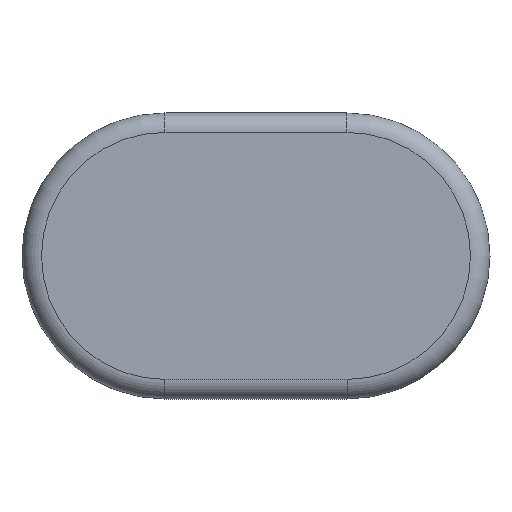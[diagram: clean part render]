
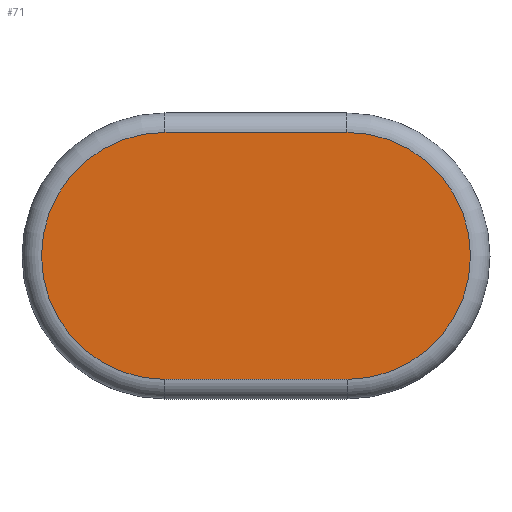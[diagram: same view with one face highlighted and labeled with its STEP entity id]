
A CAD part, top view. The second image highlights one B-rep face of the part: STEP entity #71.
In plain terms, the highlighted planar face has unit normal (0, 0, 1).
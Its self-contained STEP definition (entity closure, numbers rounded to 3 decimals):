
#35=AXIS2_PLACEMENT_3D('Plane Axis2P3D',#32,#33,#34) ;
#39=AXIS2_PLACEMENT_3D('Circle Axis2P3D',#37,#38,$) ;
#55=AXIS2_PLACEMENT_3D('Circle Axis2P3D',#53,#54,$) ;
#32=CARTESIAN_POINT('Axis2P3D Location',(0.,0.,41.2)) ;
#37=CARTESIAN_POINT('Axis2P3D Location',(0.,0.,41.2)) ;
#41=CARTESIAN_POINT('Vertex',(0.,-9.5,41.2)) ;
#43=CARTESIAN_POINT('Vertex',(0.,9.5,41.2)) ;
#46=CARTESIAN_POINT('Line Origine',(-7.,9.5,41.2)) ;
#50=CARTESIAN_POINT('Vertex',(-14.,9.5,41.2)) ;
#53=CARTESIAN_POINT('Axis2P3D Location',(-14.,0.,41.2)) ;
#57=CARTESIAN_POINT('Vertex',(-14.,-9.5,41.2)) ;
#60=CARTESIAN_POINT('Line Origine',(-7.,-9.5,41.2)) ;
#33=DIRECTION('Axis2P3D Direction',(0.,0.,1.)) ;
#34=DIRECTION('Axis2P3D XDirection',(1.,0.,0.)) ;
#38=DIRECTION('Axis2P3D Direction',(0.,0.,1.)) ;
#47=DIRECTION('Vector Direction',(1.,0.,0.)) ;
#54=DIRECTION('Axis2P3D Direction',(0.,0.,1.)) ;
#61=DIRECTION('Vector Direction',(-1.,0.,0.)) ;
#48=VECTOR('Line Direction',#47,1.) ;
#62=VECTOR('Line Direction',#61,1.) ;
#66=ORIENTED_EDGE('',*,*,#45,.T.) ;
#67=ORIENTED_EDGE('',*,*,#52,.T.) ;
#68=ORIENTED_EDGE('',*,*,#59,.T.) ;
#69=ORIENTED_EDGE('',*,*,#64,.T.) ;
#71=ADVANCED_FACE('\X2\96F64EF651E04F554F53\X0\',(#70),#36,.T.) ;
#40=CIRCLE('generated circle',#39,9.5) ;
#56=CIRCLE('generated circle',#55,9.5) ;
#45=EDGE_CURVE('',#42,#44,#40,.T.) ;
#52=EDGE_CURVE('',#44,#51,#49,.F.) ;
#59=EDGE_CURVE('',#51,#58,#56,.T.) ;
#64=EDGE_CURVE('',#58,#42,#63,.F.) ;
#65=EDGE_LOOP('',(#66,#67,#68,#69)) ;
#70=FACE_OUTER_BOUND('',#65,.T.) ;
#49=LINE('Line',#46,#48) ;
#63=LINE('Line',#60,#62) ;
#36=PLANE('',#35) ;
#42=VERTEX_POINT('',#41) ;
#44=VERTEX_POINT('',#43) ;
#51=VERTEX_POINT('',#50) ;
#58=VERTEX_POINT('',#57) ;
